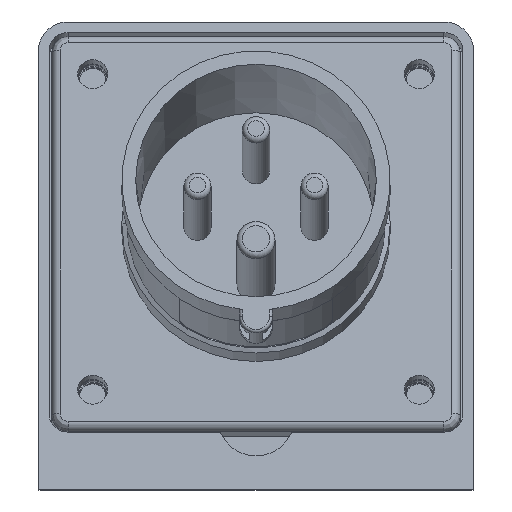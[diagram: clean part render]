
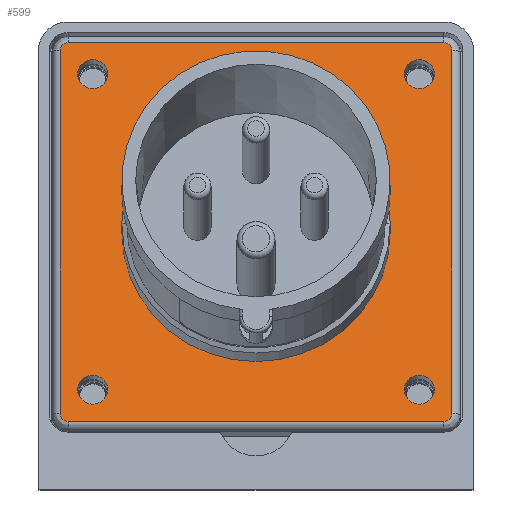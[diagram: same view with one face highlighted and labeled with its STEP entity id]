
A CAD part, front view. The second image highlights one B-rep face of the part: STEP entity #599.
In plain terms, the highlighted planar face has unit normal (0, -0.966, 0.259).
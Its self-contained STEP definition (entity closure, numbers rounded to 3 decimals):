
#599 = ADVANCED_FACE('',(#600,#670,#690,#710,#730,#750),#770,.T.);
#600 = FACE_BOUND('',#601,.T.);
#601 = EDGE_LOOP('',(#602,#612,#621,#629,#638,#646,#655,#663));
#602 = ORIENTED_EDGE('',*,*,#603,.T.);
#603 = EDGE_CURVE('',#604,#606,#608,.T.);
#604 = VERTEX_POINT('',#605);
#605 = CARTESIAN_POINT('',(-36.,-27.928,80.732));
#606 = VERTEX_POINT('',#607);
#607 = CARTESIAN_POINT('',(-36.,-45.787,14.084));
#608 = LINE('',#609,#610);
#609 = CARTESIAN_POINT('',(-36.,-27.928,80.732));
#610 = VECTOR('',#611,1.);
#611 = DIRECTION('',(0.,-0.259,-0.966));
#612 = ORIENTED_EDGE('',*,*,#613,.T.);
#613 = EDGE_CURVE('',#606,#614,#616,.T.);
#614 = VERTEX_POINT('',#615);
#615 = CARTESIAN_POINT('',(-34.5,-46.175,12.635));
#616 = CIRCLE('',#617,1.5);
#617 = AXIS2_PLACEMENT_3D('',#618,#619,#620);
#618 = CARTESIAN_POINT('',(-34.5,-45.787,14.084));
#619 = DIRECTION('',(0.,-0.966,0.259));
#620 = DIRECTION('',(-1.,0.,0.));
#621 = ORIENTED_EDGE('',*,*,#622,.T.);
#622 = EDGE_CURVE('',#614,#623,#625,.T.);
#623 = VERTEX_POINT('',#624);
#624 = CARTESIAN_POINT('',(34.5,-46.175,12.635));
#625 = LINE('',#626,#627);
#626 = CARTESIAN_POINT('',(-34.5,-46.175,12.635));
#627 = VECTOR('',#628,1.);
#628 = DIRECTION('',(1.,0.,0.));
#629 = ORIENTED_EDGE('',*,*,#630,.T.);
#630 = EDGE_CURVE('',#623,#631,#633,.T.);
#631 = VERTEX_POINT('',#632);
#632 = CARTESIAN_POINT('',(36.,-45.787,14.084));
#633 = CIRCLE('',#634,1.5);
#634 = AXIS2_PLACEMENT_3D('',#635,#636,#637);
#635 = CARTESIAN_POINT('',(34.5,-45.787,14.084));
#636 = DIRECTION('',(0.,-0.966,0.259));
#637 = DIRECTION('',(0.,-0.259,-0.966));
#638 = ORIENTED_EDGE('',*,*,#639,.T.);
#639 = EDGE_CURVE('',#631,#640,#642,.T.);
#640 = VERTEX_POINT('',#641);
#641 = CARTESIAN_POINT('',(36.,-27.928,80.732));
#642 = LINE('',#643,#644);
#643 = CARTESIAN_POINT('',(36.,-45.787,14.084));
#644 = VECTOR('',#645,1.);
#645 = DIRECTION('',(0.,0.259,0.966));
#646 = ORIENTED_EDGE('',*,*,#647,.T.);
#647 = EDGE_CURVE('',#640,#648,#650,.T.);
#648 = VERTEX_POINT('',#649);
#649 = CARTESIAN_POINT('',(34.5,-27.54,82.181));
#650 = CIRCLE('',#651,1.5);
#651 = AXIS2_PLACEMENT_3D('',#652,#653,#654);
#652 = CARTESIAN_POINT('',(34.5,-27.928,80.732));
#653 = DIRECTION('',(0.,-0.966,0.259));
#654 = DIRECTION('',(1.,0.,0.));
#655 = ORIENTED_EDGE('',*,*,#656,.T.);
#656 = EDGE_CURVE('',#648,#657,#659,.T.);
#657 = VERTEX_POINT('',#658);
#658 = CARTESIAN_POINT('',(-34.5,-27.54,82.181));
#659 = LINE('',#660,#661);
#660 = CARTESIAN_POINT('',(34.5,-27.54,82.181));
#661 = VECTOR('',#662,1.);
#662 = DIRECTION('',(-1.,0.,0.));
#663 = ORIENTED_EDGE('',*,*,#664,.T.);
#664 = EDGE_CURVE('',#657,#604,#665,.T.);
#665 = CIRCLE('',#666,1.5);
#666 = AXIS2_PLACEMENT_3D('',#667,#668,#669);
#667 = CARTESIAN_POINT('',(-34.5,-27.928,80.732));
#668 = DIRECTION('',(0.,-0.966,0.259));
#669 = DIRECTION('',(0.,0.259,0.966));
#670 = FACE_BOUND('',#671,.T.);
#671 = EDGE_LOOP('',(#672,#683));
#672 = ORIENTED_EDGE('',*,*,#673,.F.);
#673 = EDGE_CURVE('',#674,#676,#678,.T.);
#674 = VERTEX_POINT('',#675);
#675 = CARTESIAN_POINT('',(27.25,-29.093,76.386));
#676 = VERTEX_POINT('',#677);
#677 = CARTESIAN_POINT('',(32.75,-29.093,76.386));
#678 = CIRCLE('',#679,2.75);
#679 = AXIS2_PLACEMENT_3D('',#680,#681,#682);
#680 = CARTESIAN_POINT('',(30.,-29.093,76.386));
#681 = DIRECTION('',(0.,-0.966,0.259));
#682 = DIRECTION('',(-1.,0.,0.));
#683 = ORIENTED_EDGE('',*,*,#684,.F.);
#684 = EDGE_CURVE('',#676,#674,#685,.T.);
#685 = CIRCLE('',#686,2.75);
#686 = AXIS2_PLACEMENT_3D('',#687,#688,#689);
#687 = CARTESIAN_POINT('',(30.,-29.093,76.386));
#688 = DIRECTION('',(0.,-0.966,0.259));
#689 = DIRECTION('',(1.,0.,0.));
#690 = FACE_BOUND('',#691,.T.);
#691 = EDGE_LOOP('',(#692,#703));
#692 = ORIENTED_EDGE('',*,*,#693,.F.);
#693 = EDGE_CURVE('',#694,#696,#698,.T.);
#694 = VERTEX_POINT('',#695);
#695 = CARTESIAN_POINT('',(-32.75,-29.093,76.386));
#696 = VERTEX_POINT('',#697);
#697 = CARTESIAN_POINT('',(-27.25,-29.093,76.386));
#698 = CIRCLE('',#699,2.75);
#699 = AXIS2_PLACEMENT_3D('',#700,#701,#702);
#700 = CARTESIAN_POINT('',(-30.,-29.093,76.386));
#701 = DIRECTION('',(0.,-0.966,0.259));
#702 = DIRECTION('',(-1.,0.,0.));
#703 = ORIENTED_EDGE('',*,*,#704,.F.);
#704 = EDGE_CURVE('',#696,#694,#705,.T.);
#705 = CIRCLE('',#706,2.75);
#706 = AXIS2_PLACEMENT_3D('',#707,#708,#709);
#707 = CARTESIAN_POINT('',(-30.,-29.093,76.386));
#708 = DIRECTION('',(0.,-0.966,0.259));
#709 = DIRECTION('',(1.,0.,0.));
#710 = FACE_BOUND('',#711,.T.);
#711 = EDGE_LOOP('',(#712,#723));
#712 = ORIENTED_EDGE('',*,*,#713,.F.);
#713 = EDGE_CURVE('',#714,#716,#718,.T.);
#714 = VERTEX_POINT('',#715);
#715 = CARTESIAN_POINT('',(27.25,-44.622,18.43));
#716 = VERTEX_POINT('',#717);
#717 = CARTESIAN_POINT('',(32.75,-44.622,18.43));
#718 = CIRCLE('',#719,2.75);
#719 = AXIS2_PLACEMENT_3D('',#720,#721,#722);
#720 = CARTESIAN_POINT('',(30.,-44.622,18.43));
#721 = DIRECTION('',(0.,-0.966,0.259));
#722 = DIRECTION('',(-1.,0.,0.));
#723 = ORIENTED_EDGE('',*,*,#724,.F.);
#724 = EDGE_CURVE('',#716,#714,#725,.T.);
#725 = CIRCLE('',#726,2.75);
#726 = AXIS2_PLACEMENT_3D('',#727,#728,#729);
#727 = CARTESIAN_POINT('',(30.,-44.622,18.43));
#728 = DIRECTION('',(0.,-0.966,0.259));
#729 = DIRECTION('',(1.,0.,0.));
#730 = FACE_BOUND('',#731,.T.);
#731 = EDGE_LOOP('',(#732,#743));
#732 = ORIENTED_EDGE('',*,*,#733,.F.);
#733 = EDGE_CURVE('',#734,#736,#738,.T.);
#734 = VERTEX_POINT('',#735);
#735 = CARTESIAN_POINT('',(-32.75,-44.622,18.43));
#736 = VERTEX_POINT('',#737);
#737 = CARTESIAN_POINT('',(-27.25,-44.622,18.43));
#738 = CIRCLE('',#739,2.75);
#739 = AXIS2_PLACEMENT_3D('',#740,#741,#742);
#740 = CARTESIAN_POINT('',(-30.,-44.622,18.43));
#741 = DIRECTION('',(0.,-0.966,0.259));
#742 = DIRECTION('',(-1.,0.,0.));
#743 = ORIENTED_EDGE('',*,*,#744,.F.);
#744 = EDGE_CURVE('',#736,#734,#745,.T.);
#745 = CIRCLE('',#746,2.75);
#746 = AXIS2_PLACEMENT_3D('',#747,#748,#749);
#747 = CARTESIAN_POINT('',(-30.,-44.622,18.43));
#748 = DIRECTION('',(0.,-0.966,0.259));
#749 = DIRECTION('',(1.,0.,0.));
#750 = FACE_BOUND('',#751,.T.);
#751 = EDGE_LOOP('',(#752,#763));
#752 = ORIENTED_EDGE('',*,*,#753,.F.);
#753 = EDGE_CURVE('',#754,#756,#758,.T.);
#754 = VERTEX_POINT('',#755);
#755 = CARTESIAN_POINT('',(-24.65,-36.858,47.408));
#756 = VERTEX_POINT('',#757);
#757 = CARTESIAN_POINT('',(24.65,-36.858,47.408));
#758 = CIRCLE('',#759,24.65);
#759 = AXIS2_PLACEMENT_3D('',#760,#761,#762);
#760 = CARTESIAN_POINT('',(0.,-36.858,47.408));
#761 = DIRECTION('',(0.,-0.966,0.259));
#762 = DIRECTION('',(-1.,0.,0.));
#763 = ORIENTED_EDGE('',*,*,#764,.F.);
#764 = EDGE_CURVE('',#756,#754,#765,.T.);
#765 = CIRCLE('',#766,24.65);
#766 = AXIS2_PLACEMENT_3D('',#767,#768,#769);
#767 = CARTESIAN_POINT('',(0.,-36.858,47.408));
#768 = DIRECTION('',(0.,-0.966,0.259));
#769 = DIRECTION('',(1.,0.,0.));
#770 = PLANE('',#771);
#771 = AXIS2_PLACEMENT_3D('',#772,#773,#774);
#772 = CARTESIAN_POINT('',(0.,-36.858,47.408));
#773 = DIRECTION('',(0.,-0.966,0.259));
#774 = DIRECTION('',(-1.,0.,0.));
